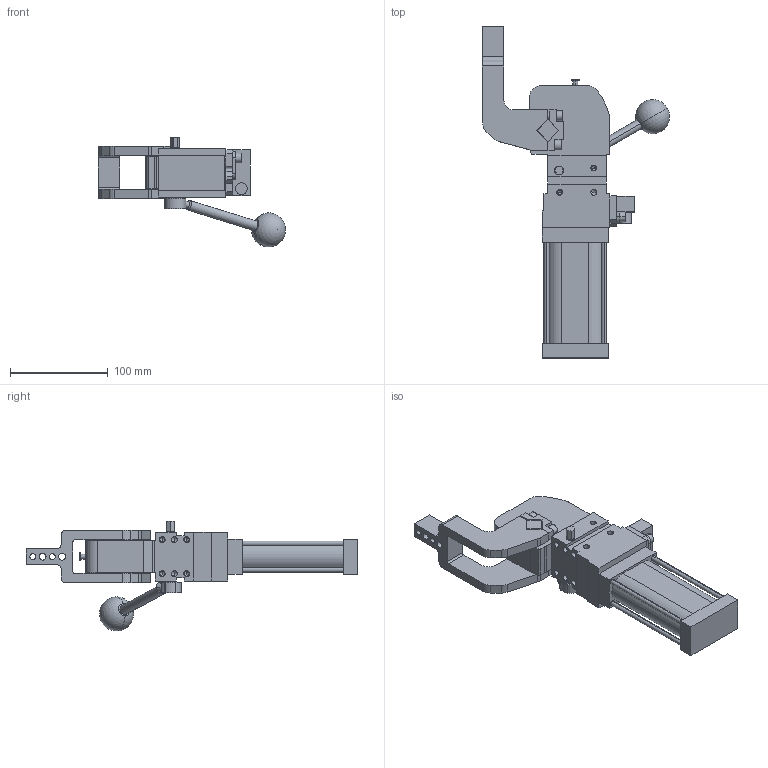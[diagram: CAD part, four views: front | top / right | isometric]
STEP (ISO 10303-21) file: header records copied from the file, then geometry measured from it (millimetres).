
FILE_DESCRIPTION (( 'STEP AP214' ), '1' );
FILE_NAME ('cplm40lbh3ci1g_108.STEP', '2021-05-25T13:53:29', ( '' ), ( '' ), 'SwSTEP 2.0', 'SolidWorks 2021', '' );
FILE_SCHEMA (( 'AUTOMOTIVE_DESIGN' ));
Length unit declared in the file: millimetre
Products named in the file (6): meccanica_cplm40; leva_v3c_cpl40; comando_manuale_cplm_40; piastra_blocchetto_cpl40; blocchetto_VEP_0_cpl40; cplm40lbh3ci1g_108
Assembly tree (5 placements, depth 2):
  cplm40lbh3ci1g_108
    meccanica_cplm40
    leva_v3c_cpl40
    blocchetto_VEP_0_cpl40
    piastra_blocchetto_cpl40
    comando_manuale_cplm_40
Bounding box: 191.62 x 340 x 112.66 mm (x, y, z)
Volume: 824463.8 mm3; surface area: 130997.7 mm2
Topology: 6 solids, 6 shells, 500 faces, 1288 edges, 815 vertices
Faces by surface type: plane 289, cylinder 163, cone 46, sphere 2
Entity records: 16520 total; most frequent: CARTESIAN_POINT 2679, DIRECTION 2635, ORIENTED_EDGE 2482, EDGE_CURVE 1241, AXIS2_PLACEMENT_3D 890, LINE 855, VECTOR 855, VERTEX_POINT 812
